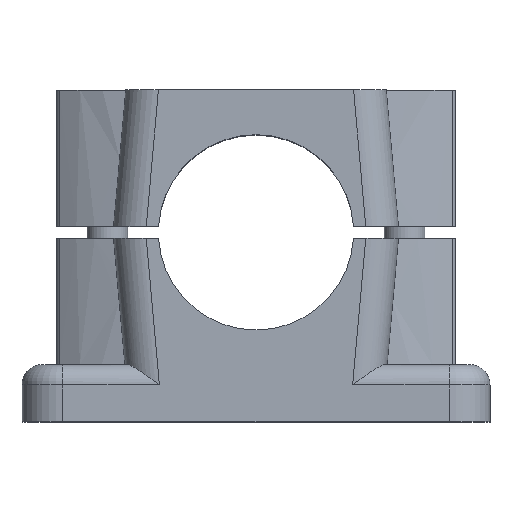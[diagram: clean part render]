
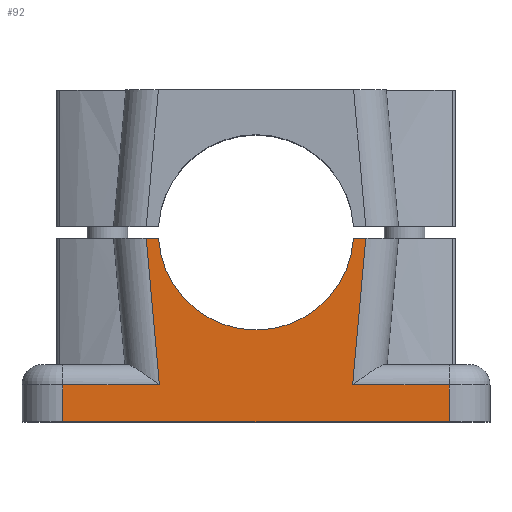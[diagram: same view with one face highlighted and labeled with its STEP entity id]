
A CAD part, top view. The second image highlights one B-rep face of the part: STEP entity #92.
In plain terms, the highlighted planar face has unit normal (0, 0, 1).
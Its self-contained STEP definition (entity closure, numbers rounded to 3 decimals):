
#92 = ADVANCED_FACE( '', ( #339 ), #340, .T. );
#339 = FACE_OUTER_BOUND( '', #839, .T. );
#340 = PLANE( '', #840 );
#839 = EDGE_LOOP( '', ( #1453, #1454, #1455, #1456, #1457, #1458, #1459, #1460, #1461, #1462 ) );
#840 = AXIS2_PLACEMENT_3D( '', #1463, #1464, #1465 );
#1453 = ORIENTED_EDGE( '', *, *, #3200, .T. );
#1454 = ORIENTED_EDGE( '', *, *, #3201, .T. );
#1455 = ORIENTED_EDGE( '', *, *, #3202, .T. );
#1456 = ORIENTED_EDGE( '', *, *, #3203, .F. );
#1457 = ORIENTED_EDGE( '', *, *, #3204, .T. );
#1458 = ORIENTED_EDGE( '', *, *, #3205, .T. );
#1459 = ORIENTED_EDGE( '', *, *, #3171, .F. );
#1460 = ORIENTED_EDGE( '', *, *, #3206, .F. );
#1461 = ORIENTED_EDGE( '', *, *, #3120, .T. );
#1462 = ORIENTED_EDGE( '', *, *, #3207, .T. );
#1463 = CARTESIAN_POINT( '', ( 0., 0., 38. ) );
#1464 = DIRECTION( '', ( 0., 0., 1. ) );
#1465 = DIRECTION( '', ( 1., 0., 0. ) );
#3120 = EDGE_CURVE( '', #3701, #3699, #3702, .T. );
#3171 = EDGE_CURVE( '', #3791, #3779, #3793, .T. );
#3200 = EDGE_CURVE( '', #3850, #3851, #3852, .T. );
#3201 = EDGE_CURVE( '', #3851, #3853, #3854, .F. );
#3202 = EDGE_CURVE( '', #3853, #3855, #3856, .T. );
#3203 = EDGE_CURVE( '', #3857, #3855, #3858, .T. );
#3204 = EDGE_CURVE( '', #3857, #3859, #3860, .T. );
#3205 = EDGE_CURVE( '', #3859, #3779, #3861, .T. );
#3206 = EDGE_CURVE( '', #3701, #3791, #3862, .T. );
#3207 = EDGE_CURVE( '', #3699, #3850, #3863, .T. );
#3699 = VERTEX_POINT( '', #4702 );
#3701 = VERTEX_POINT( '', #4725 );
#3702 = LINE( '', #4726, #4727 );
#3779 = VERTEX_POINT( '', #4822 );
#3791 = VERTEX_POINT( '', #4837 );
#3793 = LINE( '', #4839, #4840 );
#3850 = VERTEX_POINT( '', #4909 );
#3851 = VERTEX_POINT( '', #4910 );
#3852 = LINE( '', #4911, #4912 );
#3853 = VERTEX_POINT( '', #4913 );
#3854 = CIRCLE( '', #4914, 24. );
#3855 = VERTEX_POINT( '', #4915 );
#3856 = LINE( '', #4916, #4917 );
#3857 = VERTEX_POINT( '', #4918 );
#3858 = LINE( '', #4919, #4920 );
#3859 = VERTEX_POINT( '', #4921 );
#3860 = LINE( '', #4922, #4923 );
#3861 = LINE( '', #4924, #4925 );
#3862 = LINE( '', #4926, #4927 );
#3863 = LINE( '', #4928, #4929 );
#4702 = CARTESIAN_POINT( '', ( 23.749, -37.5, 38. ) );
#4725 = CARTESIAN_POINT( '', ( 47.5, -37.5, 38. ) );
#4726 = CARTESIAN_POINT( '', ( 47.5, -37.5, 38. ) );
#4727 = VECTOR( '', #6059, 1000. );
#4822 = CARTESIAN_POINT( '', ( -47.5, -46.5, 38. ) );
#4837 = CARTESIAN_POINT( '', ( 47.5, -46.5, 38. ) );
#4839 = CARTESIAN_POINT( '', ( 47.5, -46.5, 38. ) );
#4840 = VECTOR( '', #6168, 1000. );
#4909 = CARTESIAN_POINT( '', ( 26.973, -1.5, 38. ) );
#4910 = CARTESIAN_POINT( '', ( 23.953, -1.5, 38. ) );
#4911 = CARTESIAN_POINT( '', ( 0., -1.5, 38. ) );
#4912 = VECTOR( '', #6229, 1000. );
#4913 = CARTESIAN_POINT( '', ( -23.953, -1.5, 38. ) );
#4914 = AXIS2_PLACEMENT_3D( '', #6230, #6231, #6232 );
#4915 = CARTESIAN_POINT( '', ( -26.973, -1.5, 38. ) );
#4916 = CARTESIAN_POINT( '', ( 0., -1.5, 38. ) );
#4917 = VECTOR( '', #6233, 1000. );
#4918 = CARTESIAN_POINT( '', ( -23.749, -37.5, 38. ) );
#4919 = CARTESIAN_POINT( '', ( -23.693, -38.131, 38. ) );
#4920 = VECTOR( '', #6234, 1000. );
#4921 = CARTESIAN_POINT( '', ( -47.5, -37.5, 38. ) );
#4922 = CARTESIAN_POINT( '', ( 47.5, -37.5, 38. ) );
#4923 = VECTOR( '', #6235, 1000. );
#4924 = CARTESIAN_POINT( '', ( -47.5, -37.5, 38. ) );
#4925 = VECTOR( '', #6236, 1000. );
#4926 = CARTESIAN_POINT( '', ( 47.5, -37.5, 38. ) );
#4927 = VECTOR( '', #6237, 1000. );
#4928 = CARTESIAN_POINT( '', ( 23.693, -38.131, 38. ) );
#4929 = VECTOR( '', #6238, 1000. );
#6059 = DIRECTION( '', ( -1., 0., 0. ) );
#6168 = DIRECTION( '', ( -1., 0., 0. ) );
#6229 = DIRECTION( '', ( -1., 0., 0. ) );
#6230 = CARTESIAN_POINT( '', ( 0., 0., 38. ) );
#6231 = DIRECTION( '', ( 0., 0., 1. ) );
#6232 = DIRECTION( '', ( 1., 0., 0. ) );
#6233 = DIRECTION( '', ( -1., 0., 0. ) );
#6234 = DIRECTION( '', ( -0.089, 0.996, 0. ) );
#6235 = DIRECTION( '', ( -1., 0., 0. ) );
#6236 = DIRECTION( '', ( 0., -1., 0. ) );
#6237 = DIRECTION( '', ( 0., -1., 0. ) );
#6238 = DIRECTION( '', ( 0.089, 0.996, 0. ) );
